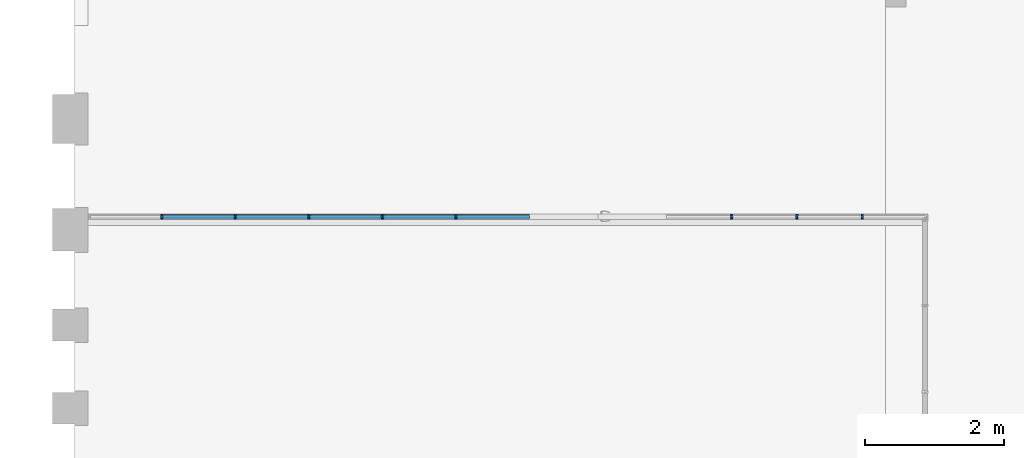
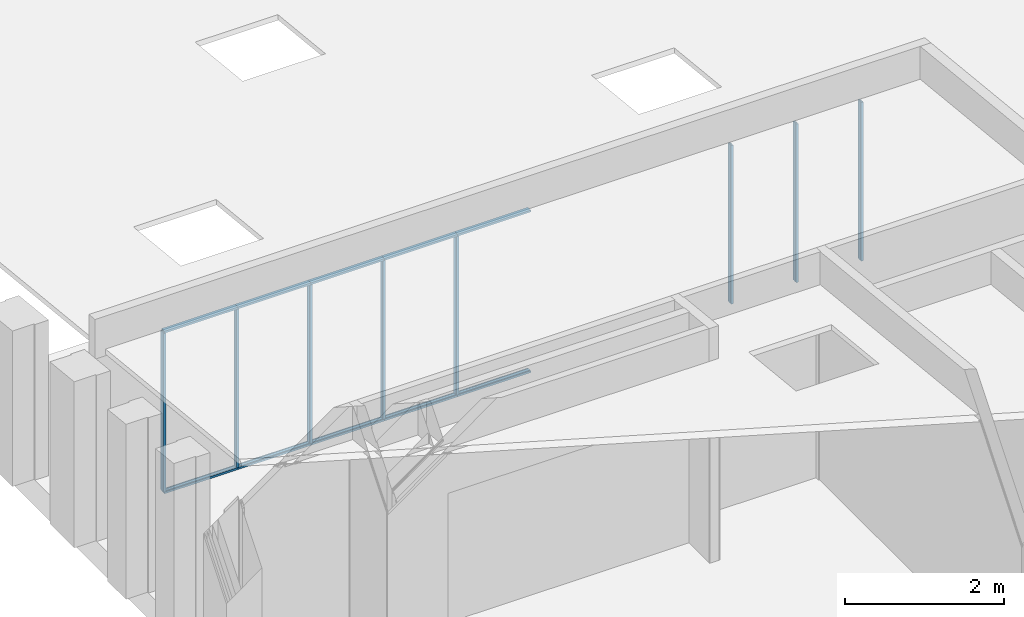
# One storey, part 3 of 43: 18 members, 1 element without a shape of its own.
"""IFC2X3 building model written with IfcOpenShell, lengths in millimetres."""

from ifc_helpers import new_model, entity, si_unit, converted_unit, derived_unit, money_unit, direction, frame, origin_with_axes, place, context, subcontext, project, spatial, faceted_brep, source, transform, mapped, material, material_list, type_object, element, aggregate, save


model = new_model("IFC2X3")

# Units and contexts
model_context = context("Model", 3, precision=0.01, world=origin_with_axes(), true_north=direction((0.0, 1.0)))
body_context = subcontext(model_context, "Body", "Model", "MODEL_VIEW")
ifc_project = project(units=[si_unit("LENGTHUNIT", "METRE", prefix="MILLI"), si_unit("AREAUNIT", "SQUARE_METRE"), si_unit("VOLUMEUNIT", "CUBIC_METRE"), converted_unit("PLANEANGLEUNIT", "DEGREE", entity("IfcPlaneAngleMeasure", 0.0174532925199), si_unit("PLANEANGLEUNIT", "RADIAN"), dimensions=[0, 0, 0, 0, 0, 0, 0]), si_unit("SOLIDANGLEUNIT", "STERADIAN"), money_unit("EUR"), converted_unit("TIMEUNIT", "Year", entity("IfcTimeMeasure", 31556926.0), si_unit("TIMEUNIT", "SECOND"), dimensions=[0, 0, 1, 0, 0, 0, 0]), si_unit("MASSUNIT", "GRAM", prefix="KILO"), si_unit("THERMODYNAMICTEMPERATUREUNIT", "DEGREE_CELSIUS"), si_unit("LUMINOUSINTENSITYUNIT", "LUMEN"), si_unit("ENERGYUNIT", "JOULE", prefix="MEGA"), derived_unit("THERMALCONDUCTANCEUNIT", [(si_unit("POWERUNIT", "WATT"), 1), (si_unit("LENGTHUNIT", "METRE"), -1), (si_unit("THERMODYNAMICTEMPERATUREUNIT", "KELVIN"), -1)]), derived_unit("SPECIFICHEATCAPACITYUNIT", [(si_unit("ENERGYUNIT", "JOULE"), 1), (si_unit("MASSUNIT", "GRAM", prefix="KILO"), -1), (si_unit("THERMODYNAMICTEMPERATUREUNIT", "KELVIN"), -1)]), derived_unit("MASSDENSITYUNIT", [(si_unit("MASSUNIT", "GRAM", prefix="KILO"), 1), (si_unit("VOLUMEUNIT", "CUBIC_METRE"), -1)])], contexts=[model_context])

# Site, building, storey
site_placement = place(None, origin_with_axes())
site = spatial("IfcSite", under=ifc_project, at=site_placement, Name="L.Koidula tn 11b", CompositionType="ELEMENT")
building_placement = place(site_placement, origin_with_axes())
building = spatial("IfcBuilding", under=site, at=building_placement, Name="Rakvere Riigigümnaasium", CompositionType="ELEMENT")
storey_placement = place(building_placement, frame((0.0, 0.0, 6665.0), z_axis=(0.0, 0.0, 1.0), x_axis=(1.0, 0.0, 0.0)))
storey = spatial("IfcBuildingStorey", under=building, at=storey_placement, Name="3.korrus +6,66", CompositionType="ELEMENT", Elevation=6665.0)

# Curtain wall, members
curtain_wall_type = type_object("IfcCurtainWallType", Name="Curtain Wall Type", PredefinedType="NOTDEFINED")
curtain_wall_placement = place(storey_placement, frame((45254.9999955, 28178.4554945, 0.0), z_axis=(0.0, 0.0, 1.0), x_axis=(1.0, 0.0, 0.0)))
curtain_wall = element("IfcCurtainWall", 1, at=curtain_wall_placement, inside=storey, type_object=curtain_wall_type, Name="SKLF-26")
ifc_material_1 = material(Name="Klaasvill")
ifc_material_2 = material(Name="Teras RAL7012")
ifc_material_list = material_list([ifc_material_1, ifc_material_2])
member_type_1 = type_object("IfcMemberType", Name="Boundary Frame 30 x 42", PredefinedType="MULLION")
shared_shape_1 = source(origin_with_axes(), body_context, "Body", "Brep", [
    faceted_brep([(7.49999990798, 15.000000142, 0.0), (13.8499999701, 15.000000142, 0.0), (13.8499999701, 15.000000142, 1061.0), (7.49999990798, 15.000000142, 1061.0), (7.49999990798, 29.0161444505, 0.0), (13.8499999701, 29.0161444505, 0.0), (13.8499999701, 29.0161444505, 1061.0), (7.49999990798, 29.0161444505, 1061.0)], [[[0, 1, 2, 3]], [[0, 4, 5, 1]], [[1, 5, 6, 2]], [[3, 2, 6, 7]], [[4, 0, 3, 7]], [[5, 4, 7, 6]]]),
    faceted_brep([(24.987414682, 29.0161444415, 0.0), (25.004489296, 27.0307503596, 0.0), (25.004489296, 27.0307503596, 1061.0), (24.987414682, 29.0161444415, 1061.0), (28.5126239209, 29.0161444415, 0.0), (28.7655837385, 28.0385325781, 0.0), (28.4955493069, 27.0307503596, 0.0), (27.75780152, 26.2930025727, 0.0), (26.7500193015, 26.0229681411, 0.0), (25.742237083, 26.2930025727, 0.0), (25.742237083, 26.2930025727, 1061.0), (26.7500193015, 26.0229681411, 1061.0), (27.75780152, 26.2930025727, 1061.0), (28.4955493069, 27.0307503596, 1061.0), (28.7655837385, 28.0385325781, 1061.0), (28.5126239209, 29.0161444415, 1061.0)], [[[0, 1, 2, 3]], [[0, 4, 5, 6, 7, 8, 9, 1]], [[1, 9, 10, 2]], [[3, 2, 10, 11, 12, 13, 14, 15]], [[4, 0, 3, 15]], [[5, 4, 15, 14]], [[6, 5, 14, 13]], [[7, 6, 13, 12]], [[8, 7, 12, 11]], [[9, 8, 11, 10]]]),
    faceted_brep([(7.49999990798, -24.9999997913, 0.0), (7.49999990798, -39.0161445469, 0.0), (7.49999990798, -39.0161445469, 1061.0), (7.49999990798, -24.9999997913, 1061.0), (13.8499999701, -24.9999997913, 0.0), (13.8499999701, -39.0161445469, 0.0), (13.8499999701, -39.0161445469, 1061.0), (13.8499999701, -24.9999997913, 1061.0)], [[[0, 1, 2, 3]], [[0, 4, 5, 1]], [[1, 5, 6, 2]], [[3, 2, 6, 7]], [[4, 0, 3, 7]], [[5, 4, 7, 6]]]),
    faceted_brep([(25.004489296, -37.0307503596, 0.0), (24.987414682, -39.0161444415, 0.0), (24.987414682, -39.0161444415, 1061.0), (25.004489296, -37.0307503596, 1061.0), (25.742237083, -36.2930025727, 0.0), (26.7500193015, -36.0229681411, 0.0), (27.75780152, -36.2930025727, 0.0), (28.4955493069, -37.0307503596, 0.0), (28.7655837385, -38.0385325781, 0.0), (28.5126239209, -39.0161444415, 0.0), (28.5126239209, -39.0161444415, 1061.0), (28.7655837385, -38.0385325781, 1061.0), (28.4955493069, -37.0307503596, 1061.0), (27.75780152, -36.2930025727, 1061.0), (26.7500193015, -36.0229681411, 1061.0), (25.742237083, -36.2930025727, 1061.0)], [[[0, 1, 2, 3]], [[0, 4, 5, 6, 7, 8, 9, 1]], [[1, 9, 10, 2]], [[3, 2, 10, 11, 12, 13, 14, 15]], [[4, 0, 3, 15]], [[5, 4, 15, 14]], [[6, 5, 14, 13]], [[7, 6, 13, 12]], [[8, 7, 12, 11]], [[9, 8, 11, 10]]]),
    faceted_brep([(0.0, -22.0000000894, 0.0), (29.5999996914, -22.0000000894, 0.0), (29.5999996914, -22.0000000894, 1061.0), (0.0, -22.0000000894, 1061.0), (0.0, 12.0000000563, 0.0), (29.5999996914, 12.0000000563, 0.0), (1.9999999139, 10.0000001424, 0.0), (1.9999999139, -20.0000001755, 0.0), (18.7999996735, -20.0000001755, 0.0), (18.7999996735, 10.0000001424, 0.0), (29.5999996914, 12.0000000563, 1061.0), (0.0, 12.0000000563, 1061.0), (1.9999999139, 10.0000001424, 1061.0), (18.7999996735, 10.0000001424, 1061.0), (18.7999996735, -20.0000001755, 1061.0), (1.9999999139, -20.0000001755, 1061.0)], [[[0, 1, 2, 3]], [[0, 4, 5, 1], [6, 7, 8, 9]], [[1, 5, 10, 2]], [[3, 2, 10, 11], [12, 13, 14, 15]], [[4, 0, 3, 11]], [[5, 4, 11, 10]], [[7, 6, 12, 15]], [[8, 7, 15, 14]], [[9, 8, 14, 13]], [[6, 9, 13, 12]]]),
    faceted_brep([(0.0, 12.0, 0.0), (29.5999996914, 12.0000000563, 0.0), (29.5999996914, 12.0000000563, 1061.0), (0.0, 12.0, 1061.0), (0.0, 32.0, 0.0), (30.0000193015, 32.0, 0.0), (30.0000193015, 29.0161444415, 0.0), (28.5126239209, 29.0161444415, 0.0), (24.987414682, 29.0161444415, 0.0), (13.8499999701, 29.0161444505, 0.0), (7.49999999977, 29.0161444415, 0.0), (7.49999999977, 15.0, 0.0), (13.8499999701, 15.000000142, 0.0), (30.0000193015, 15.0, 0.0), (30.0000193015, 12.0, 0.0), (30.0000193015, 12.0, 1061.0), (30.0000193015, 15.0, 1061.0), (13.8499999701, 15.000000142, 1061.0), (7.49999999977, 15.0, 1061.0), (7.49999999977, 29.0161444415, 1061.0), (13.8499999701, 29.0161444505, 1061.0), (24.987414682, 29.0161444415, 1061.0), (28.5126239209, 29.0161444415, 1061.0), (30.0000193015, 29.0161444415, 1061.0), (30.0000193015, 32.0, 1061.0), (0.0, 32.0, 1061.0)], [[[0, 1, 2, 3]], [[0, 4, 5, 6, 7, 8, 9, 10, 11, 12, 13, 14, 1]], [[1, 14, 15, 2]], [[3, 2, 15, 16, 17, 18, 19, 20, 21, 22, 23, 24, 25]], [[4, 0, 3, 25]], [[5, 4, 25, 24]], [[6, 5, 24, 23]], [[7, 6, 23, 22]], [[8, 7, 22, 21]], [[9, 8, 21, 20]], [[10, 9, 20, 19]], [[11, 10, 19, 18]], [[12, 11, 18, 17]], [[13, 12, 17, 16]], [[14, 13, 16, 15]]]),
    faceted_brep([(0.0, -22.0, 0.0), (0.0, -42.0, 0.0), (0.0, -42.0, 1061.0), (0.0, -22.0, 1061.0), (29.5999996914, -22.0000000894, 0.0), (30.0000193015, -22.0, 0.0), (30.0000193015, -25.0, 0.0), (13.8499999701, -24.9999997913, 0.0), (7.49999999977, -25.0, 0.0), (7.49999999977, -39.0161444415, 0.0), (13.8499999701, -39.0161445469, 0.0), (24.987414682, -39.0161444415, 0.0), (28.5126239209, -39.0161444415, 0.0), (30.0000193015, -39.0161444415, 0.0), (30.0000193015, -42.0, 0.0), (30.0000193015, -42.0, 1061.0), (30.0000193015, -39.0161444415, 1061.0), (28.5126239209, -39.0161444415, 1061.0), (24.987414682, -39.0161444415, 1061.0), (13.8499999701, -39.0161445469, 1061.0), (7.49999999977, -39.0161444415, 1061.0), (7.49999999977, -25.0, 1061.0), (13.8499999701, -24.9999997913, 1061.0), (30.0000193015, -25.0, 1061.0), (30.0000193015, -22.0, 1061.0), (29.5999996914, -22.0000000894, 1061.0)], [[[0, 1, 2, 3]], [[0, 4, 5, 6, 7, 8, 9, 10, 11, 12, 13, 14, 1]], [[1, 14, 15, 2]], [[3, 2, 15, 16, 17, 18, 19, 20, 21, 22, 23, 24, 25]], [[4, 0, 3, 25]], [[5, 4, 25, 24]], [[6, 5, 24, 23]], [[7, 6, 23, 22]], [[8, 7, 22, 21]], [[9, 8, 21, 20]], [[10, 9, 20, 19]], [[11, 10, 19, 18]], [[12, 11, 18, 17]], [[13, 12, 17, 16]], [[14, 13, 16, 15]]]),
])
member_1_placement = place(curtain_wall_placement, frame((-3389.0, 0.0, 0.0), z_axis=(-1.0, 0.0, 0.0), x_axis=(0.0, 0.0, 1.0)))
member_1 = element("IfcMember", 2, at=member_1_placement, type_object=member_type_1, material=ifc_material_list, Name="SKLF-17-raam", ObjectType="MULLION", context=body_context, shape_type="MappedRepresentation", body=[
    mapped(shared_shape_1, transform((0.0, 0.0, 0.0))),
])
member_2_placement = place(curtain_wall_placement, frame((-4450.0, 0.0, 0.0), z_axis=(-1.0, 0.0, 0.0), x_axis=(0.0, 0.0, 1.0)))
member_2 = element("IfcMember", 3, at=member_2_placement, type_object=member_type_1, material=ifc_material_list, Name="SKLF-18-raam", ObjectType="MULLION", context=body_context, shape_type="MappedRepresentation", body=[
    mapped(shared_shape_1, transform((0.0, 0.0, 0.0))),
])
member_3_placement = place(curtain_wall_placement, frame((-5511.0, 0.0, 0.0), z_axis=(-1.0, 0.0, 0.0), x_axis=(0.0, 0.0, 1.0)))
member_3 = element("IfcMember", 4, at=member_3_placement, type_object=member_type_1, material=ifc_material_list, Name="SKLF-19-raam", ObjectType="MULLION", context=body_context, shape_type="MappedRepresentation", body=[
    mapped(shared_shape_1, transform((0.0, 0.0, 0.0))),
])
member_4_placement = place(curtain_wall_placement, frame((-6572.0, 0.0, 0.0), z_axis=(-1.0, 0.0, 0.0), x_axis=(0.0, 0.0, 1.0)))
member_4 = element("IfcMember", 5, at=member_4_placement, type_object=member_type_1, material=ifc_material_list, Name="SKLF-20-raam", ObjectType="MULLION", context=body_context, shape_type="MappedRepresentation", body=[
    mapped(shared_shape_1, transform((0.0, 0.0, 0.0))),
])
member_5_placement = place(curtain_wall_placement, frame((-7633.0, 0.0, 0.0), z_axis=(-1.0, 0.0, 0.0), x_axis=(0.0, 0.0, 1.0)))
member_5 = element("IfcMember", 6, at=member_5_placement, type_object=member_type_1, material=ifc_material_list, Name="SKLF-21-raam", ObjectType="MULLION", context=body_context, shape_type="MappedRepresentation", body=[
    mapped(shared_shape_1, transform((0.0, 0.0, 0.0))),
])
member_6_placement = place(curtain_wall_placement, frame((-4450.0, 0.0, 2489.99984217), z_axis=(1.0, 0.0, 0.0), x_axis=(0.0, 0.0, -1.0)))
member_6 = element("IfcMember", 7, at=member_6_placement, type_object=member_type_1, material=ifc_material_list, Name="SKLF-29-raam", ObjectType="MULLION", context=body_context, shape_type="MappedRepresentation", body=[
    mapped(shared_shape_1, transform((0.0, 0.0, 0.0))),
])
member_7_placement = place(curtain_wall_placement, frame((-5511.0, 0.0, 2489.99984217), z_axis=(1.0, 0.0, 0.0), x_axis=(0.0, 0.0, -1.0)))
member_7 = element("IfcMember", 8, at=member_7_placement, type_object=member_type_1, material=ifc_material_list, Name="SKLF-28-raam", ObjectType="MULLION", context=body_context, shape_type="MappedRepresentation", body=[
    mapped(shared_shape_1, transform((0.0, 0.0, 0.0))),
])
member_8_placement = place(curtain_wall_placement, frame((-6572.0, 0.0, 2489.99984217), z_axis=(1.0, 0.0, 0.0), x_axis=(0.0, 0.0, -1.0)))
member_8 = element("IfcMember", 9, at=member_8_placement, type_object=member_type_1, material=ifc_material_list, Name="SKLF-27-raam", ObjectType="MULLION", context=body_context, shape_type="MappedRepresentation", body=[
    mapped(shared_shape_1, transform((0.0, 0.0, 0.0))),
])
member_9_placement = place(curtain_wall_placement, frame((-7633.0, 0.0, 2489.99984217), z_axis=(1.0, 0.0, 0.0), x_axis=(0.0, 0.0, -1.0)))
member_9 = element("IfcMember", 10, at=member_9_placement, type_object=member_type_1, material=ifc_material_list, Name="SKLF-26-raam", ObjectType="MULLION", context=body_context, shape_type="MappedRepresentation", body=[
    mapped(shared_shape_1, transform((0.0, 0.0, 0.0))),
])
member_10_placement = place(curtain_wall_placement, frame((-8694.0, 0.0, 2489.99984217), z_axis=(1.0, 0.0, 0.0), x_axis=(0.0, 0.0, -1.0)))
member_10 = element("IfcMember", 11, at=member_10_placement, type_object=member_type_1, material=ifc_material_list, Name="SKLF-25-raam", ObjectType="MULLION", context=body_context, shape_type="MappedRepresentation", body=[
    mapped(shared_shape_1, transform((0.0, 0.0, 0.0))),
])
member_type_2 = type_object("IfcMemberType", Name="Siseklaasfassaad-Vaheprofiil-Doubleline30 34 x 42", PredefinedType="MULLION")
shared_shape_2 = source(origin_with_axes(), body_context, "Body", "Brep", [
    faceted_brep([(12.004489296, 27.0307503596, 30.0000193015), (12.004489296, 27.0307503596, 2459.99982287), (11.987414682, 29.0161444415, 2459.99982287), (11.987414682, 29.0161444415, 30.0000193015), (12.742237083, 26.2930025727, 30.0000193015), (12.742237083, 26.2930025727, 2459.99982287), (13.7500193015, 26.0229681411, 2459.99982287), (14.75780152, 26.2930025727, 2459.99982287), (15.4955493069, 27.0307503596, 2459.99982287), (15.7655837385, 28.0385325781, 2459.99982287), (15.5126239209, 29.0161444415, 2459.99982287), (15.5126239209, 29.0161444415, 30.0000193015), (15.7655837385, 28.0385325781, 30.0000193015), (15.4955493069, 27.0307503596, 30.0000193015), (14.75780152, 26.2930025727, 30.0000193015), (13.7500193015, 26.0229681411, 30.0000193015)], [[[0, 1, 2, 3]], [[4, 5, 1, 0]], [[2, 1, 5, 6, 7, 8, 9, 10]], [[3, 2, 10, 11]], [[3, 11, 12, 13, 14, 15, 4, 0]], [[15, 6, 5, 4]], [[14, 7, 6, 15]], [[13, 8, 7, 14]], [[12, 9, 8, 13]], [[11, 10, 9, 12]]]),
    faceted_brep([(15.4955493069, -37.0307503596, 30.0000193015), (15.4955493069, -37.0307503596, 2459.99982287), (15.5126239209, -39.0161444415, 2459.99982287), (15.5126239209, -39.0161444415, 30.0000193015), (14.75780152, -36.2930025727, 30.0000193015), (14.75780152, -36.2930025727, 2459.99982287), (13.7500193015, -36.0229681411, 2459.99982287), (12.742237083, -36.2930025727, 2459.99982287), (12.004489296, -37.0307503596, 2459.99982287), (11.7344548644, -38.0385325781, 2459.99982287), (11.987414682, -39.0161444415, 2459.99982287), (11.987414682, -39.0161444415, 30.0000193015), (11.7344548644, -38.0385325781, 30.0000193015), (12.004489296, -37.0307503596, 30.0000193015), (12.742237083, -36.2930025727, 30.0000193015), (13.7500193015, -36.0229681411, 30.0000193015)], [[[0, 1, 2, 3]], [[4, 5, 1, 0]], [[2, 1, 5, 6, 7, 8, 9, 10]], [[3, 2, 10, 11]], [[3, 11, 12, 13, 14, 15, 4, 0]], [[15, 6, 5, 4]], [[14, 7, 6, 15]], [[13, 8, 7, 14]], [[12, 9, 8, 13]], [[11, 10, 9, 12]]]),
    faceted_brep([(-15.7655837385, 28.0385325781, 30.0000193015), (-15.7655837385, 28.0385325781, 2459.99982287), (-11.987414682, 29.0161444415, 2459.99982287), (-11.987414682, 29.0161444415, 30.0000193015), (-15.4955493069, 27.0307503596, 30.0000193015), (-15.4955493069, 27.0307503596, 2459.99982287), (-14.75780152, 26.2930025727, 2459.99982287), (-13.7500193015, 26.0229681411, 2459.99982287), (-12.742237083, 26.2930025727, 2459.99982287), (-12.004489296, 27.0307503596, 2459.99982287), (-11.7344548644, 28.0385325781, 2459.99982287), (-11.7344548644, 28.0385325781, 30.0000193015), (-12.004489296, 27.0307503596, 30.0000193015), (-12.742237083, 26.2930025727, 30.0000193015), (-13.7500193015, 26.0229681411, 30.0000193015), (-14.75780152, 26.2930025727, 30.0000193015)], [[[0, 1, 2, 3]], [[4, 5, 1, 0]], [[2, 1, 5, 6, 7, 8, 9, 10]], [[3, 2, 10, 11]], [[3, 11, 12, 13, 14, 15, 4, 0]], [[15, 6, 5, 4]], [[14, 7, 6, 15]], [[13, 8, 7, 14]], [[12, 9, 8, 13]], [[11, 10, 9, 12]]]),
    faceted_brep([(-15.5126239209, -39.0161444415, 30.0000193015), (-15.5126239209, -39.0161444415, 2459.99982287), (-15.4955493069, -37.0307503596, 2459.99982287), (-15.4955493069, -37.0307503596, 30.0000193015), (-11.987414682, -39.0161444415, 30.0000193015), (-11.987414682, -39.0161444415, 2459.99982287), (-11.7344548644, -38.0385325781, 2459.99982287), (-12.004489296, -37.0307503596, 2459.99982287), (-12.742237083, -36.2930025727, 2459.99982287), (-13.7500193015, -36.0229681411, 2459.99982287), (-14.75780152, -36.2930025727, 2459.99982287), (-14.75780152, -36.2930025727, 30.0000193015), (-13.7500193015, -36.0229681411, 30.0000193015), (-12.742237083, -36.2930025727, 30.0000193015), (-12.004489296, -37.0307503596, 30.0000193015), (-11.7344548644, -38.0385325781, 30.0000193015)], [[[0, 1, 2, 3]], [[4, 5, 1, 0]], [[2, 1, 5, 6, 7, 8, 9, 10]], [[3, 2, 10, 11]], [[3, 11, 12, 13, 14, 15, 4, 0]], [[15, 6, 5, 4]], [[14, 7, 6, 15]], [[13, 8, 7, 14]], [[12, 9, 8, 13]], [[11, 10, 9, 12]]]),
    faceted_brep([(-3.08905781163e-07, -22.0000000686, 30.0000193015), (-3.08905781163e-07, -22.0000000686, 2459.99982287), (-14.8000001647, -22.0000000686, 2459.99982287), (-14.8000001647, -22.0000000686, 30.0000193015), (14.8000003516, -22.0000000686, 30.0000193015), (14.8000003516, -22.0000000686, 2459.99982287), (14.8000003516, 12.0000001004, 2459.99982287), (-3.08905781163e-07, 12.0000001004, 2459.99982287), (-14.8000001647, 12.0000001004, 2459.99982287), (-12.8000002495, 10.0000001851, 2459.99982287), (4.0000003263, 10.0000001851, 2459.99982287), (4.0000003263, -20.0000001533, 2459.99982287), (-12.8000002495, -20.0000001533, 2459.99982287), (-14.8000001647, 12.0000001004, 30.0000193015), (-3.08905781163e-07, 12.0000001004, 30.0000193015), (14.8000003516, 12.0000001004, 30.0000193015), (-12.8000002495, 10.0000001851, 30.0000193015), (-12.8000002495, -20.0000001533, 30.0000193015), (4.0000003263, -20.0000001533, 30.0000193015), (4.0000003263, 10.0000001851, 30.0000193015)], [[[0, 1, 2, 3]], [[4, 5, 1, 0]], [[2, 1, 5, 6, 7, 8], [9, 10, 11, 12]], [[3, 2, 8, 13]], [[3, 13, 14, 15, 4, 0], [16, 17, 18, 19]], [[15, 6, 5, 4]], [[14, 7, 6, 15]], [[13, 8, 7, 14]], [[19, 10, 9, 16]], [[18, 11, 10, 19]], [[17, 12, 11, 18]], [[16, 9, 12, 17]]]),
    faceted_brep([(0.0, 12.0, 30.0000193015), (0.0, 12.0, 2459.99982287), (0.0, 32.0000000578, 2459.99982287), (0.0, 32.0000000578, 30.0000193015), (14.8000003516, 12.0000001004, 30.0000193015), (14.8000003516, 12.0000001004, 2459.99982287), (17.0000193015, 12.0, 2459.99982287), (17.0000193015, 15.0000000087, 2459.99982287), (7.50000002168, 15.0000000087, 2459.99982287), (7.50000002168, 29.0161446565, 2459.99982287), (11.987414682, 29.0161444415, 2459.99982287), (15.5126239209, 29.0161444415, 2459.99982287), (17.0000193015, 29.0161446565, 2459.99982287), (17.0000193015, 32.0000000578, 2459.99982287), (17.0000193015, 32.0000000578, 30.0000193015), (17.0000193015, 29.0161446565, 30.0000193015), (15.5126239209, 29.0161444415, 30.0000193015), (11.987414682, 29.0161444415, 30.0000193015), (7.50000002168, 29.0161446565, 30.0000193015), (7.50000002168, 15.0000000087, 30.0000193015), (17.0000193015, 15.0000000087, 30.0000193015), (17.0000193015, 12.0, 30.0000193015)], [[[0, 1, 2, 3]], [[4, 5, 1, 0]], [[2, 1, 5, 6, 7, 8, 9, 10, 11, 12, 13]], [[3, 2, 13, 14]], [[3, 14, 15, 16, 17, 18, 19, 20, 21, 4, 0]], [[21, 6, 5, 4]], [[20, 7, 6, 21]], [[19, 8, 7, 20]], [[18, 9, 8, 19]], [[17, 10, 9, 18]], [[16, 11, 10, 17]], [[15, 12, 11, 16]], [[14, 13, 12, 15]]]),
    faceted_brep([(0.0, -42.0, 30.0000193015), (0.0, -42.0, 2459.99982287), (0.0, -21.9999999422, 2459.99982287), (0.0, -21.9999999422, 30.0000193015), (17.0000193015, -42.0, 30.0000193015), (17.0000193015, -42.0, 2459.99982287), (17.0000193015, -39.0161445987, 2459.99982287), (15.5126239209, -39.0161444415, 2459.99982287), (11.987414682, -39.0161444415, 2459.99982287), (7.50000002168, -39.0161445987, 2459.99982287), (7.50000002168, -24.9999999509, 2459.99982287), (17.0000193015, -24.9999999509, 2459.99982287), (17.0000193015, -21.9999999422, 2459.99982287), (14.8000003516, -22.0000000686, 2459.99982287), (14.8000003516, -22.0000000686, 30.0000193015), (17.0000193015, -21.9999999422, 30.0000193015), (17.0000193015, -24.9999999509, 30.0000193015), (7.50000002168, -24.9999999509, 30.0000193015), (7.50000002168, -39.0161445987, 30.0000193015), (11.987414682, -39.0161444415, 30.0000193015), (15.5126239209, -39.0161444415, 30.0000193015), (17.0000193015, -39.0161445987, 30.0000193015)], [[[0, 1, 2, 3]], [[4, 5, 1, 0]], [[2, 1, 5, 6, 7, 8, 9, 10, 11, 12, 13]], [[3, 2, 13, 14]], [[3, 14, 15, 16, 17, 18, 19, 20, 21, 4, 0]], [[21, 6, 5, 4]], [[20, 7, 6, 21]], [[19, 8, 7, 20]], [[18, 9, 8, 19]], [[17, 10, 9, 18]], [[16, 11, 10, 17]], [[15, 12, 11, 16]], [[14, 13, 12, 15]]]),
    faceted_brep([(0.0, 32.0, 30.0000193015), (0.0, 32.0, 2459.99982287), (0.0, 12.0, 2459.99982287), (0.0, 12.0, 30.0000193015), (-17.0000193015, 32.0, 30.0000193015), (-17.0000193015, 32.0, 2459.99982287), (-17.0000193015, 29.0161444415, 2459.99982287), (-15.5126239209, 29.0161444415, 2459.99982287), (-11.987414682, 29.0161444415, 2459.99982287), (-7.49999999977, 29.0161444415, 2459.99982287), (-7.49999999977, 15.0, 2459.99982287), (-17.0000193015, 15.0, 2459.99982287), (-17.0000193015, 12.0, 2459.99982287), (-14.8000001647, 12.0000001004, 2459.99982287), (-14.8000001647, 12.0000001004, 30.0000193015), (-17.0000193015, 12.0, 30.0000193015), (-17.0000193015, 15.0, 30.0000193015), (-7.49999999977, 15.0, 30.0000193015), (-7.49999999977, 29.0161444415, 30.0000193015), (-11.987414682, 29.0161444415, 30.0000193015), (-15.5126239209, 29.0161444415, 30.0000193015), (-17.0000193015, 29.0161444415, 30.0000193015)], [[[0, 1, 2, 3]], [[4, 5, 1, 0]], [[2, 1, 5, 6, 7, 8, 9, 10, 11, 12, 13]], [[3, 2, 13, 14]], [[3, 14, 15, 16, 17, 18, 19, 20, 21, 4, 0]], [[21, 6, 5, 4]], [[20, 7, 6, 21]], [[19, 8, 7, 20]], [[18, 9, 8, 19]], [[17, 10, 9, 18]], [[16, 11, 10, 17]], [[15, 12, 11, 16]], [[14, 13, 12, 15]]]),
    faceted_brep([(-14.8000001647, -22.0000000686, 30.0000193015), (-14.8000001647, -22.0000000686, 2459.99982287), (0.0, -22.0, 2459.99982287), (0.0, -22.0, 30.0000193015), (-17.0000193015, -22.0, 30.0000193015), (-17.0000193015, -22.0, 2459.99982287), (-17.0000193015, -25.0, 2459.99982287), (-7.49999999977, -25.0, 2459.99982287), (-7.49999999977, -39.0161444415, 2459.99982287), (-11.987414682, -39.0161444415, 2459.99982287), (-15.5126239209, -39.0161444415, 2459.99982287), (-17.0000193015, -39.0161444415, 2459.99982287), (-17.0000193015, -42.0, 2459.99982287), (0.0, -42.0, 2459.99982287), (0.0, -42.0, 30.0000193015), (-17.0000193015, -42.0, 30.0000193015), (-17.0000193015, -39.0161444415, 30.0000193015), (-15.5126239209, -39.0161444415, 30.0000193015), (-11.987414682, -39.0161444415, 30.0000193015), (-7.49999999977, -39.0161444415, 30.0000193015), (-7.49999999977, -25.0, 30.0000193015), (-17.0000193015, -25.0, 30.0000193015)], [[[0, 1, 2, 3]], [[4, 5, 1, 0]], [[2, 1, 5, 6, 7, 8, 9, 10, 11, 12, 13]], [[3, 2, 13, 14]], [[3, 14, 15, 16, 17, 18, 19, 20, 21, 4, 0]], [[21, 6, 5, 4]], [[20, 7, 6, 21]], [[19, 8, 7, 20]], [[18, 9, 8, 19]], [[17, 10, 9, 18]], [[16, 11, 10, 17]], [[15, 12, 11, 16]], [[14, 13, 12, 15]]]),
])
member_11_placement = place(curtain_wall_placement, frame((1413.0, 0.0, 0.0), z_axis=(0.0, 0.0, 1.0), x_axis=(1.0, 0.0, 0.0)))
member_11 = element("IfcMember", 12, at=member_11_placement, type_object=member_type_2, material=ifc_material_list, Name="Frame-Siseklaasf-079", ObjectType="MULLION", context=body_context, shape_type="MappedRepresentation", body=[
    mapped(shared_shape_2, transform((0.0, 0.0, 0.0))),
])
member_12_placement = place(curtain_wall_placement, frame((471.0, 0.0, 0.0), z_axis=(0.0, 0.0, 1.0), x_axis=(1.0, 0.0, 0.0)))
member_12 = element("IfcMember", 13, at=member_12_placement, type_object=member_type_2, material=ifc_material_list, Name="Frame-Siseklaasf-080", ObjectType="MULLION", context=body_context, shape_type="MappedRepresentation", body=[
    mapped(shared_shape_2, transform((0.0, 0.0, 0.0))),
])
member_13_placement = place(curtain_wall_placement, frame((-471.0, 0.0, 0.0), z_axis=(0.0, 0.0, 1.0), x_axis=(1.0, 0.0, 0.0)))
member_13 = element("IfcMember", 14, at=member_13_placement, type_object=member_type_2, material=ifc_material_list, Name="Frame-Siseklaasf-081", ObjectType="MULLION", context=body_context, shape_type="MappedRepresentation", body=[
    mapped(shared_shape_2, transform((0.0, 0.0, 0.0))),
])
member_14_placement = place(curtain_wall_placement, frame((-4450.0, 0.0, 0.0), z_axis=(0.0, 0.0, 1.0), x_axis=(1.0, 0.0, 0.0)))
member_14 = element("IfcMember", 15, at=member_14_placement, type_object=member_type_2, material=ifc_material_list, Name="Frame-Siseklaasf-082", ObjectType="MULLION", context=body_context, shape_type="MappedRepresentation", body=[
    mapped(shared_shape_2, transform((0.0, 0.0, 0.0))),
])
member_15_placement = place(curtain_wall_placement, frame((-5511.0, 0.0, 0.0), z_axis=(0.0, 0.0, 1.0), x_axis=(1.0, 0.0, 0.0)))
member_15 = element("IfcMember", 16, at=member_15_placement, type_object=member_type_2, material=ifc_material_list, Name="Frame-Siseklaasf-083", ObjectType="MULLION", context=body_context, shape_type="MappedRepresentation", body=[
    mapped(shared_shape_2, transform((0.0, 0.0, 0.0))),
])
member_16_placement = place(curtain_wall_placement, frame((-6572.0, 0.0, 0.0), z_axis=(0.0, 0.0, 1.0), x_axis=(1.0, 0.0, 0.0)))
member_16 = element("IfcMember", 17, at=member_16_placement, type_object=member_type_2, material=ifc_material_list, Name="Frame-Siseklaasf-084", ObjectType="MULLION", context=body_context, shape_type="MappedRepresentation", body=[
    mapped(shared_shape_2, transform((0.0, 0.0, 0.0))),
])
member_17_placement = place(curtain_wall_placement, frame((-7633.0, 0.0, 0.0), z_axis=(0.0, 0.0, 1.0), x_axis=(1.0, 0.0, 0.0)))
member_17 = element("IfcMember", 18, at=member_17_placement, type_object=member_type_2, material=ifc_material_list, Name="Frame-Siseklaasf-085", ObjectType="MULLION", context=body_context, shape_type="MappedRepresentation", body=[
    mapped(shared_shape_2, transform((0.0, 0.0, 0.0))),
])
member_18_placement = place(curtain_wall_placement, frame((-8694.0, 0.0, 0.0), z_axis=(0.0, 0.0, 1.0), x_axis=(1.0, 0.0, 0.0)))
member_18 = element("IfcMember", 19, at=member_18_placement, type_object=member_type_2, material=ifc_material_list, Name="Frame-Siseklaasf-086", ObjectType="MULLION", context=body_context, shape_type="MappedRepresentation", body=[
    mapped(shared_shape_2, transform((0.0, 0.0, 0.0))),
])
aggregate(curtain_wall, [member_1, member_2, member_3, member_4, member_5, member_11, member_12, member_13, member_6, member_14, member_7, member_15, member_8, member_16, member_9, member_17, member_10, member_18])

save(model, "model.ifc")
